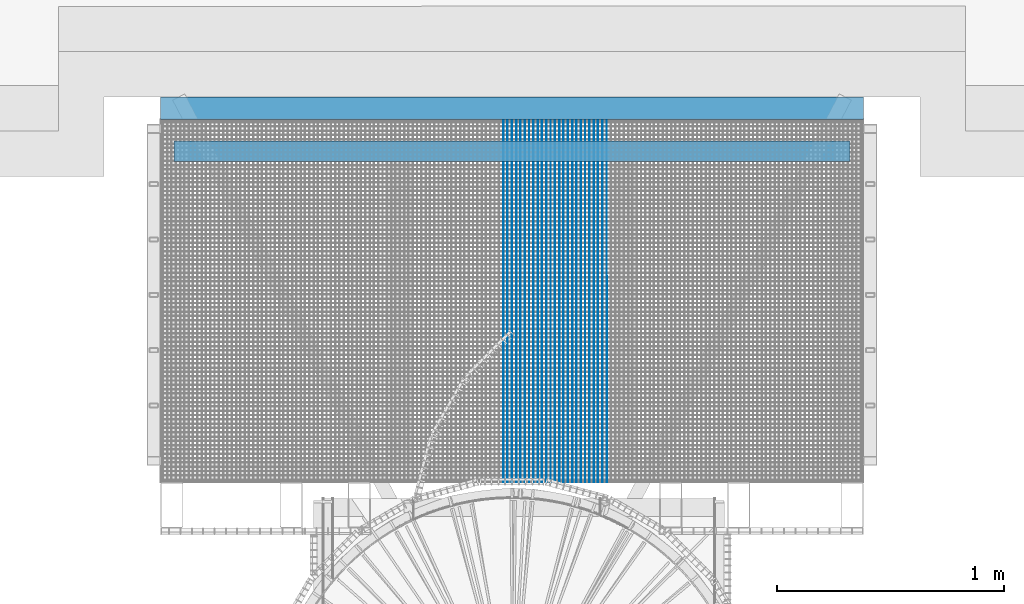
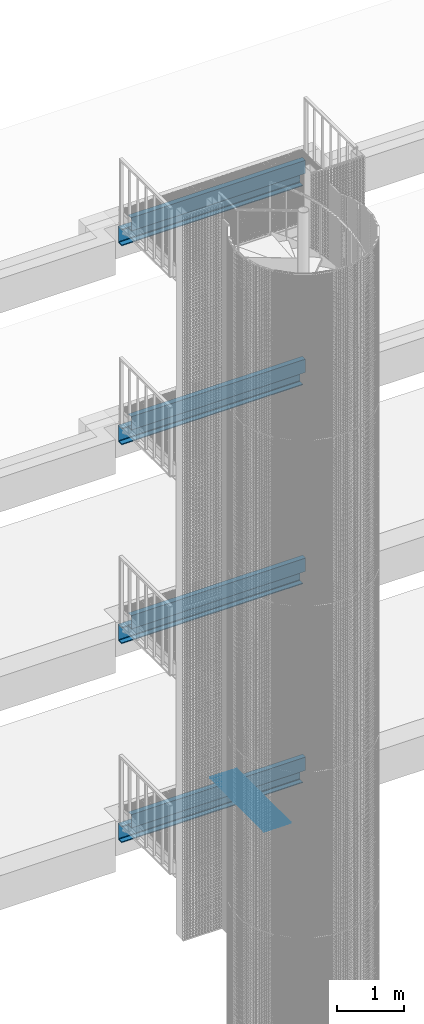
# One storey, part 84 of 1148: 33 beams, 9 elements without a shape of their own.
"""IFC2X3 building model written with IfcOpenShell, lengths in millimetres."""

from ifc_helpers import new_model, si_unit, frame, origin_with_axes, origin_2d_with_axis, place, context, subcontext, project, spatial, rectangle, u_section, extrude, material, type_object, element, aggregate, save


model = new_model("IFC2X3")

# Units and contexts
model_context = context("Model", 3, precision=1e-05, world=origin_with_axes())
body_context = subcontext(model_context, "Body", "Model", "MODEL_VIEW")
ifc_project = project(units=[si_unit("LENGTHUNIT", "METRE", prefix="MILLI"), si_unit("AREAUNIT", "SQUARE_METRE"), si_unit("VOLUMEUNIT", "CUBIC_METRE"), si_unit("MASSUNIT", "GRAM", prefix="KILO"), si_unit("TIMEUNIT", "SECOND"), si_unit("PLANEANGLEUNIT", "RADIAN"), si_unit("SOLIDANGLEUNIT", "STERADIAN"), si_unit("THERMODYNAMICTEMPERATUREUNIT", "DEGREE_CELSIUS"), si_unit("LUMINOUSINTENSITYUNIT", "LUMEN")], contexts=[model_context])

# Site, building, storey
site_placement = place(None, origin_with_axes())
site = spatial("IfcSite", under=ifc_project, at=site_placement, Name="Undefined", CompositionType="ELEMENT")
building_placement = place(site_placement, origin_with_axes())
building = spatial("IfcBuilding", under=site, at=building_placement, Name="Undefined", CompositionType="ELEMENT")
storey_placement = place(building_placement, origin_with_axes())
storey = spatial("IfcBuildingStorey", under=building, at=storey_placement, Name="Undefined", CompositionType="ELEMENT", Elevation=0.0)

# Assembly, beams
assembly_1_placement = place(storey_placement, origin_with_axes())
assembly_1 = element("IfcElementAssembly", 1, at=assembly_1_placement, inside=storey, Name="BORDURE", AssemblyPlace="NOTDEFINED", PredefinedType="NOTDEFINED")
ifc_material_1 = material(Name="STEEL/S235JR")
beam_type_1 = type_object("IfcBeamType", Name="PL2*10", PredefinedType="NOTDEFINED")
beam_1_placement = place(assembly_1_placement, frame((-37.9245752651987, 1102.00213198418, 6485.0), z_axis=(0.0, 0.0, 1.0), x_axis=(-4.50599999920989e-06, 0.999999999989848, 0.0)))
beam_1 = element("IfcBeam", 2, at=beam_1_placement, type_object=beam_type_1, material=ifc_material_1, Name="ENTRETOISE", context=body_context, shape_type="SweptSolid", body=[
    extrude(rectangle(XDim=2.0, YDim=10.0, at=origin_2d_with_axis()), frame((1596.0000000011, -1.35186458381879e-18, -7.27595761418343e-12), z_axis=(-1.0, 0.0, 0.0), x_axis=(0.0, -1.0, 0.0)), (0.0, 0.0, 1.0), 1596.0),
])
beam_2_placement = place(assembly_1_placement, frame((-18.9245752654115, 1102.00222550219, 6485.0), z_axis=(0.0, 0.0, 1.0), x_axis=(-4.50599999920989e-06, 0.999999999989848, 0.0)))
beam_2 = element("IfcBeam", 3, at=beam_2_placement, type_object=beam_type_1, material=ifc_material_1, Name="ENTRETOISE", context=body_context, shape_type="SweptSolid", body=[
    extrude(rectangle(XDim=2.0, YDim=10.0, at=origin_2d_with_axis()), frame((1596.0000000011, -1.35186458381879e-18, -7.27595761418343e-12), z_axis=(-1.0, 0.0, 0.0), x_axis=(0.0, -1.0, 0.0)), (0.0, 0.0, 1.0), 1596.0),
])
beam_3_placement = place(assembly_1_placement, frame((0.075424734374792, 1102.0023190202, 6485.0), z_axis=(0.0, 0.0, 1.0), x_axis=(-4.50599999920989e-06, 0.999999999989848, 0.0)))
beam_3 = element("IfcBeam", 4, at=beam_3_placement, type_object=beam_type_1, material=ifc_material_1, Name="ENTRETOISE", context=body_context, shape_type="SweptSolid", body=[
    extrude(rectangle(XDim=2.0, YDim=10.0, at=origin_2d_with_axis()), frame((1596.0000000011, -1.35186458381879e-18, -7.27595761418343e-12), z_axis=(-1.0, 0.0, 0.0), x_axis=(0.0, -1.0, 0.0)), (0.0, 0.0, 1.0), 1596.0),
])
beam_4_placement = place(assembly_1_placement, frame((19.075424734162, 1102.00241253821, 6485.0), z_axis=(0.0, 0.0, 1.0), x_axis=(-4.50599999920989e-06, 0.999999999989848, 0.0)))
beam_4 = element("IfcBeam", 5, at=beam_4_placement, type_object=beam_type_1, material=ifc_material_1, Name="ENTRETOISE", context=body_context, shape_type="SweptSolid", body=[
    extrude(rectangle(XDim=2.0, YDim=10.0, at=origin_2d_with_axis()), frame((1596.0000000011, -1.35186458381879e-18, -7.27595761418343e-12), z_axis=(-1.0, 0.0, 0.0), x_axis=(0.0, -1.0, 0.0)), (0.0, 0.0, 1.0), 1596.0),
])
beam_5_placement = place(assembly_1_placement, frame((38.0754247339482, 1102.00250605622, 6485.0), z_axis=(0.0, 0.0, 1.0), x_axis=(-4.50599999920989e-06, 0.999999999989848, 0.0)))
beam_5 = element("IfcBeam", 6, at=beam_5_placement, type_object=beam_type_1, material=ifc_material_1, Name="ENTRETOISE", context=body_context, shape_type="SweptSolid", body=[
    extrude(rectangle(XDim=2.0, YDim=10.0, at=origin_2d_with_axis()), frame((1596.0000000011, -1.35186458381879e-18, -7.27595761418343e-12), z_axis=(-1.0, 0.0, 0.0), x_axis=(0.0, -1.0, 0.0)), (0.0, 0.0, 1.0), 1596.0),
])
beam_6_placement = place(assembly_1_placement, frame((57.0754247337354, 1102.00259957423, 6485.0), z_axis=(0.0, 0.0, 1.0), x_axis=(-4.50599999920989e-06, 0.999999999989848, 0.0)))
beam_6 = element("IfcBeam", 7, at=beam_6_placement, type_object=beam_type_1, material=ifc_material_1, Name="ENTRETOISE", context=body_context, shape_type="SweptSolid", body=[
    extrude(rectangle(XDim=2.0, YDim=10.0, at=origin_2d_with_axis()), frame((1596.0000000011, -1.35186458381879e-18, -7.27595761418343e-12), z_axis=(-1.0, 0.0, 0.0), x_axis=(0.0, -1.0, 0.0)), (0.0, 0.0, 1.0), 1596.0),
])
beam_7_placement = place(assembly_1_placement, frame((76.0754247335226, 1102.00269309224, 6485.0), z_axis=(0.0, 0.0, 1.0), x_axis=(-4.50599999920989e-06, 0.999999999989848, 0.0)))
beam_7 = element("IfcBeam", 8, at=beam_7_placement, type_object=beam_type_1, material=ifc_material_1, Name="ENTRETOISE", context=body_context, shape_type="SweptSolid", body=[
    extrude(rectangle(XDim=2.0, YDim=10.0, at=origin_2d_with_axis()), frame((1596.0000000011, -1.35186458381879e-18, -7.27595761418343e-12), z_axis=(-1.0, 0.0, 0.0), x_axis=(0.0, -1.0, 0.0)), (0.0, 0.0, 1.0), 1596.0),
])
beam_8_placement = place(assembly_1_placement, frame((95.0754247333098, 1102.00278661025, 6485.0), z_axis=(0.0, 0.0, 1.0), x_axis=(-4.50599999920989e-06, 0.999999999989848, 0.0)))
beam_8 = element("IfcBeam", 9, at=beam_8_placement, type_object=beam_type_1, material=ifc_material_1, Name="ENTRETOISE", context=body_context, shape_type="SweptSolid", body=[
    extrude(rectangle(XDim=2.0, YDim=10.0, at=origin_2d_with_axis()), frame((1596.0000000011, -1.35186458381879e-18, -7.27595761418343e-12), z_axis=(-1.0, 0.0, 0.0), x_axis=(0.0, -1.0, 0.0)), (0.0, 0.0, 1.0), 1596.0),
])
beam_9_placement = place(assembly_1_placement, frame((114.075424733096, 1102.00288012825, 6485.0), z_axis=(0.0, 0.0, 1.0), x_axis=(-4.50599999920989e-06, 0.999999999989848, 0.0)))
beam_9 = element("IfcBeam", 10, at=beam_9_placement, type_object=beam_type_1, material=ifc_material_1, Name="ENTRETOISE", context=body_context, shape_type="SweptSolid", body=[
    extrude(rectangle(XDim=2.0, YDim=10.0, at=origin_2d_with_axis()), frame((1596.0000000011, -1.35186458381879e-18, -7.27595761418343e-12), z_axis=(-1.0, 0.0, 0.0), x_axis=(0.0, -1.0, 0.0)), (0.0, 0.0, 1.0), 1596.0),
])
beam_10_placement = place(assembly_1_placement, frame((133.075424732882, 1102.00297364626, 6485.0), z_axis=(0.0, 0.0, 1.0), x_axis=(-4.50599999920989e-06, 0.999999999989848, 0.0)))
beam_10 = element("IfcBeam", 11, at=beam_10_placement, type_object=beam_type_1, material=ifc_material_1, Name="ENTRETOISE", context=body_context, shape_type="SweptSolid", body=[
    extrude(rectangle(XDim=2.0, YDim=10.0, at=origin_2d_with_axis()), frame((1596.0000000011, -1.35186458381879e-18, -7.27595761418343e-12), z_axis=(-1.0, 0.0, 0.0), x_axis=(0.0, -1.0, 0.0)), (0.0, 0.0, 1.0), 1596.0),
])
beam_11_placement = place(assembly_1_placement, frame((152.075424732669, 1102.00306716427, 6485.0), z_axis=(0.0, 0.0, 1.0), x_axis=(-4.50599999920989e-06, 0.999999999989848, 0.0)))
beam_11 = element("IfcBeam", 12, at=beam_11_placement, type_object=beam_type_1, material=ifc_material_1, Name="ENTRETOISE", context=body_context, shape_type="SweptSolid", body=[
    extrude(rectangle(XDim=2.0, YDim=10.0, at=origin_2d_with_axis()), frame((1596.0000000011, -1.35186458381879e-18, -7.27595761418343e-12), z_axis=(-1.0, 0.0, 0.0), x_axis=(0.0, -1.0, 0.0)), (0.0, 0.0, 1.0), 1596.0),
])
beam_12_placement = place(assembly_1_placement, frame((171.075424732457, 1102.00316068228, 6485.0), z_axis=(0.0, 0.0, 1.0), x_axis=(-4.50599999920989e-06, 0.999999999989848, 0.0)))
beam_12 = element("IfcBeam", 13, at=beam_12_placement, type_object=beam_type_1, material=ifc_material_1, Name="ENTRETOISE", context=body_context, shape_type="SweptSolid", body=[
    extrude(rectangle(XDim=2.0, YDim=10.0, at=origin_2d_with_axis()), frame((1596.0000000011, -1.35186458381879e-18, -7.27595761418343e-12), z_axis=(-1.0, 0.0, 0.0), x_axis=(0.0, -1.0, 0.0)), (0.0, 0.0, 1.0), 1596.0),
])
beam_13_placement = place(assembly_1_placement, frame((190.075424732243, 1102.00325420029, 6485.0), z_axis=(0.0, 0.0, 1.0), x_axis=(-4.50599999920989e-06, 0.999999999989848, 0.0)))
beam_13 = element("IfcBeam", 14, at=beam_13_placement, type_object=beam_type_1, material=ifc_material_1, Name="ENTRETOISE", context=body_context, shape_type="SweptSolid", body=[
    extrude(rectangle(XDim=2.0, YDim=10.0, at=origin_2d_with_axis()), frame((1596.0000000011, -1.35186458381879e-18, -7.27595761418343e-12), z_axis=(-1.0, 0.0, 0.0), x_axis=(0.0, -1.0, 0.0)), (0.0, 0.0, 1.0), 1596.0),
])
beam_14_placement = place(assembly_1_placement, frame((209.075424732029, 1102.0033477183, 6485.0), z_axis=(0.0, 0.0, 1.0), x_axis=(-4.50599999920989e-06, 0.999999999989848, 0.0)))
beam_14 = element("IfcBeam", 15, at=beam_14_placement, type_object=beam_type_1, material=ifc_material_1, Name="ENTRETOISE", context=body_context, shape_type="SweptSolid", body=[
    extrude(rectangle(XDim=2.0, YDim=10.0, at=origin_2d_with_axis()), frame((1596.0000000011, -1.35186458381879e-18, -7.27595761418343e-12), z_axis=(-1.0, 0.0, 0.0), x_axis=(0.0, -1.0, 0.0)), (0.0, 0.0, 1.0), 1596.0),
])
beam_15_placement = place(assembly_1_placement, frame((228.075424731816, 1102.00344123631, 6485.0), z_axis=(0.0, 0.0, 1.0), x_axis=(-4.50599999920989e-06, 0.999999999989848, 0.0)))
beam_15 = element("IfcBeam", 16, at=beam_15_placement, type_object=beam_type_1, material=ifc_material_1, Name="ENTRETOISE", context=body_context, shape_type="SweptSolid", body=[
    extrude(rectangle(XDim=2.0, YDim=10.0, at=origin_2d_with_axis()), frame((1596.0000000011, -1.35186458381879e-18, -7.27595761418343e-12), z_axis=(-1.0, 0.0, 0.0), x_axis=(0.0, -1.0, 0.0)), (0.0, 0.0, 1.0), 1596.0),
])
beam_16_placement = place(assembly_1_placement, frame((247.075424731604, 1102.00353475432, 6485.0), z_axis=(0.0, 0.0, 1.0), x_axis=(-4.50599999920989e-06, 0.999999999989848, 0.0)))
beam_16 = element("IfcBeam", 17, at=beam_16_placement, type_object=beam_type_1, material=ifc_material_1, Name="ENTRETOISE", context=body_context, shape_type="SweptSolid", body=[
    extrude(rectangle(XDim=2.0, YDim=10.0, at=origin_2d_with_axis()), frame((1596.0000000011, -1.35186458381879e-18, -7.27595761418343e-12), z_axis=(-1.0, 0.0, 0.0), x_axis=(0.0, -1.0, 0.0)), (0.0, 0.0, 1.0), 1596.0),
])
beam_17_placement = place(assembly_1_placement, frame((266.075424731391, 1102.00362827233, 6485.0), z_axis=(0.0, 0.0, 1.0), x_axis=(-4.50599999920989e-06, 0.999999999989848, 0.0)))
beam_17 = element("IfcBeam", 18, at=beam_17_placement, type_object=beam_type_1, material=ifc_material_1, Name="ENTRETOISE", context=body_context, shape_type="SweptSolid", body=[
    extrude(rectangle(XDim=2.0, YDim=10.0, at=origin_2d_with_axis()), frame((1596.0000000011, -1.35186458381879e-18, -7.27595761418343e-12), z_axis=(-1.0, 0.0, 0.0), x_axis=(0.0, -1.0, 0.0)), (0.0, 0.0, 1.0), 1596.0),
])
beam_18_placement = place(assembly_1_placement, frame((285.075424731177, 1102.00372179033, 6485.0), z_axis=(0.0, 0.0, 1.0), x_axis=(-4.50599999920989e-06, 0.999999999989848, 0.0)))
beam_18 = element("IfcBeam", 19, at=beam_18_placement, type_object=beam_type_1, material=ifc_material_1, Name="ENTRETOISE", context=body_context, shape_type="SweptSolid", body=[
    extrude(rectangle(XDim=2.0, YDim=10.0, at=origin_2d_with_axis()), frame((1596.0000000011, -1.35186458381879e-18, -7.27595761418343e-12), z_axis=(-1.0, 0.0, 0.0), x_axis=(0.0, -1.0, 0.0)), (0.0, 0.0, 1.0), 1596.0),
])
beam_19_placement = place(assembly_1_placement, frame((304.075424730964, 1102.00381530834, 6485.0), z_axis=(0.0, 0.0, 1.0), x_axis=(-4.50599999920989e-06, 0.999999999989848, 0.0)))
beam_19 = element("IfcBeam", 20, at=beam_19_placement, type_object=beam_type_1, material=ifc_material_1, Name="ENTRETOISE", context=body_context, shape_type="SweptSolid", body=[
    extrude(rectangle(XDim=2.0, YDim=10.0, at=origin_2d_with_axis()), frame((1596.0000000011, -1.35186458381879e-18, -7.27595761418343e-12), z_axis=(-1.0, 0.0, 0.0), x_axis=(0.0, -1.0, 0.0)), (0.0, 0.0, 1.0), 1596.0),
])
beam_20_placement = place(assembly_1_placement, frame((323.07542473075, 1102.00390882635, 6485.0), z_axis=(0.0, 0.0, 1.0), x_axis=(-4.50599999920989e-06, 0.999999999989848, 0.0)))
beam_20 = element("IfcBeam", 21, at=beam_20_placement, type_object=beam_type_1, material=ifc_material_1, Name="ENTRETOISE", context=body_context, shape_type="SweptSolid", body=[
    extrude(rectangle(XDim=2.0, YDim=10.0, at=origin_2d_with_axis()), frame((1596.0000000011, -1.35186458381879e-18, -7.27595761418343e-12), z_axis=(-1.0, 0.0, 0.0), x_axis=(0.0, -1.0, 0.0)), (0.0, 0.0, 1.0), 1596.0),
])
beam_21_placement = place(assembly_1_placement, frame((342.075424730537, 1102.00400234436, 6485.0), z_axis=(0.0, 0.0, 1.0), x_axis=(-4.50599999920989e-06, 0.999999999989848, 0.0)))
beam_21 = element("IfcBeam", 22, at=beam_21_placement, type_object=beam_type_1, material=ifc_material_1, Name="ENTRETOISE", context=body_context, shape_type="SweptSolid", body=[
    extrude(rectangle(XDim=2.0, YDim=10.0, at=origin_2d_with_axis()), frame((1596.0000000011, -1.35186458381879e-18, -7.27595761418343e-12), z_axis=(-1.0, 0.0, 0.0), x_axis=(0.0, -1.0, 0.0)), (0.0, 0.0, 1.0), 1596.0),
])
beam_22_placement = place(assembly_1_placement, frame((361.075424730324, 1102.00409586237, 6485.0), z_axis=(0.0, 0.0, 1.0), x_axis=(-4.50599999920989e-06, 0.999999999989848, 0.0)))
beam_22 = element("IfcBeam", 23, at=beam_22_placement, type_object=beam_type_1, material=ifc_material_1, Name="ENTRETOISE", context=body_context, shape_type="SweptSolid", body=[
    extrude(rectangle(XDim=2.0, YDim=10.0, at=origin_2d_with_axis()), frame((1596.0000000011, -1.35186458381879e-18, -7.27595761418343e-12), z_axis=(-1.0, 0.0, 0.0), x_axis=(0.0, -1.0, 0.0)), (0.0, 0.0, 1.0), 1596.0),
])
beam_23_placement = place(assembly_1_placement, frame((380.07542473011, 1102.00418938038, 6485.0), z_axis=(0.0, 0.0, 1.0), x_axis=(-4.50599999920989e-06, 0.999999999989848, 0.0)))
beam_23 = element("IfcBeam", 24, at=beam_23_placement, type_object=beam_type_1, material=ifc_material_1, Name="ENTRETOISE", context=body_context, shape_type="SweptSolid", body=[
    extrude(rectangle(XDim=2.0, YDim=10.0, at=origin_2d_with_axis()), frame((1596.0000000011, -1.35186458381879e-18, -7.27595761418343e-12), z_axis=(-1.0, 0.0, 0.0), x_axis=(0.0, -1.0, 0.0)), (0.0, 0.0, 1.0), 1596.0),
])
beam_24_placement = place(assembly_1_placement, frame((399.075424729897, 1102.00428289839, 6485.0), z_axis=(0.0, 0.0, 1.0), x_axis=(-4.50599999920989e-06, 0.999999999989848, 0.0)))
beam_24 = element("IfcBeam", 25, at=beam_24_placement, type_object=beam_type_1, material=ifc_material_1, Name="ENTRETOISE", context=body_context, shape_type="SweptSolid", body=[
    extrude(rectangle(XDim=2.0, YDim=10.0, at=origin_2d_with_axis()), frame((1596.0000000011, -1.35186458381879e-18, -7.27595761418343e-12), z_axis=(-1.0, 0.0, 0.0), x_axis=(0.0, -1.0, 0.0)), (0.0, 0.0, 1.0), 1596.0),
])
beam_25_placement = place(assembly_1_placement, frame((418.075424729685, 1102.0043764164, 6485.0), z_axis=(0.0, 0.0, 1.0), x_axis=(-4.50599999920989e-06, 0.999999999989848, 0.0)))
beam_25 = element("IfcBeam", 26, at=beam_25_placement, type_object=beam_type_1, material=ifc_material_1, Name="ENTRETOISE", context=body_context, shape_type="SweptSolid", body=[
    extrude(rectangle(XDim=2.0, YDim=10.0, at=origin_2d_with_axis()), frame((1596.0000000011, -1.35186458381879e-18, -7.27595761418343e-12), z_axis=(-1.0, 0.0, 0.0), x_axis=(0.0, -1.0, 0.0)), (0.0, 0.0, 1.0), 1596.0),
])
aggregate(assembly_1, [beam_1, beam_2, beam_3, beam_4, beam_5, beam_6, beam_7, beam_8, beam_9, beam_10, beam_11, beam_12, beam_13, beam_14, beam_15, beam_16, beam_17, beam_18, beam_19, beam_20, beam_21, beam_22, beam_23, beam_24, beam_25])

# Assembly, beam
assembly_2_placement = place(storey_placement, origin_with_axes())
assembly_2 = element("IfcElementAssembly", 27, at=assembly_2_placement, inside=storey, Name="TRAVERSE", AssemblyPlace="NOTDEFINED", PredefinedType="NOTDEFINED")
ifc_material_2 = material(Name="STEEL/S275JR")
beam_type_2 = type_object("IfcBeamType", Name="UPE300", PredefinedType="NOTDEFINED")
beam_26_placement = place(assembly_2_placement, frame((-1549.92723825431, 2749.84818067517, 16790.0), z_axis=(0.0, 0.0, 1.0), x_axis=(1.0, 0.0, 0.0)))
beam_26 = element("IfcBeam", 28, at=beam_26_placement, type_object=beam_type_2, material=ifc_material_2, Name="TRAVERSE", context=body_context, shape_type="SweptSolid", body=[
    extrude(u_section(Depth=300.0, FlangeWidth=100.0, WebThickness=9.5, FlangeThickness=15.0, FilletRadius=15.0, at=origin_2d_with_axis()), frame((3099.99084151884, -4.54747022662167e-13, 3.63797880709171e-12), z_axis=(-1.0, 0.0, 0.0), x_axis=(0.0, -1.0, 0.0)), (0.0, 0.0, 1.0), 3099.99),
])
aggregate(assembly_2, [beam_26])

assembly_3_placement = place(storey_placement, origin_with_axes())
assembly_3 = element("IfcElementAssembly", 29, at=assembly_3_placement, inside=storey, Name="TRAVERSE", AssemblyPlace="NOTDEFINED", PredefinedType="NOTDEFINED")
beam_27_placement = place(assembly_3_placement, frame((-1549.92723825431, 2749.92818067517, 13190.0), z_axis=(0.0, 0.0, 1.0), x_axis=(1.0, 0.0, 0.0)))
beam_27 = element("IfcBeam", 30, at=beam_27_placement, type_object=beam_type_2, material=ifc_material_2, Name="TRAVERSE", context=body_context, shape_type="SweptSolid", body=[
    extrude(u_section(Depth=300.0, FlangeWidth=100.0, WebThickness=9.5, FlangeThickness=15.0, FilletRadius=15.0, at=origin_2d_with_axis()), frame((3099.99084151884, -4.54747022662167e-13, 3.63797880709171e-12), z_axis=(-1.0, 0.0, 0.0), x_axis=(0.0, -1.0, 0.0)), (0.0, 0.0, 1.0), 3099.99),
])
aggregate(assembly_3, [beam_27])

assembly_4_placement = place(storey_placement, origin_with_axes())
assembly_4 = element("IfcElementAssembly", 31, at=assembly_4_placement, inside=storey, Name="TRAVERSE", AssemblyPlace="NOTDEFINED", PredefinedType="NOTDEFINED")
beam_28_placement = place(assembly_4_placement, frame((-1549.92723825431, 2750.00818067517, 9590.0), z_axis=(0.0, 0.0, 1.0), x_axis=(1.0, 0.0, 0.0)))
beam_28 = element("IfcBeam", 32, at=beam_28_placement, type_object=beam_type_2, material=ifc_material_2, Name="TRAVERSE", context=body_context, shape_type="SweptSolid", body=[
    extrude(u_section(Depth=300.0, FlangeWidth=100.0, WebThickness=9.5, FlangeThickness=15.0, FilletRadius=15.0, at=origin_2d_with_axis()), frame((3099.99084151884, -4.54747022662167e-13, 3.63797880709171e-12), z_axis=(-1.0, 0.0, 0.0), x_axis=(0.0, -1.0, 0.0)), (0.0, 0.0, 1.0), 3099.99),
])
aggregate(assembly_4, [beam_28])

assembly_5_placement = place(storey_placement, origin_with_axes())
assembly_5 = element("IfcElementAssembly", 33, at=assembly_5_placement, inside=storey, Name="TRAVERSE", AssemblyPlace="NOTDEFINED", PredefinedType="NOTDEFINED")
beam_29_placement = place(assembly_5_placement, frame((-1549.92723825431, 2750.08818067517, 5990.0), z_axis=(0.0, 0.0, 1.0), x_axis=(1.0, 0.0, 0.0)))
beam_29 = element("IfcBeam", 34, at=beam_29_placement, type_object=beam_type_2, material=ifc_material_2, Name="TRAVERSE", context=body_context, shape_type="SweptSolid", body=[
    extrude(u_section(Depth=300.0, FlangeWidth=100.0, WebThickness=9.5, FlangeThickness=15.0, FilletRadius=15.0, at=origin_2d_with_axis()), frame((3099.99084151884, -4.54747022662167e-13, 3.63797880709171e-12), z_axis=(-1.0, 0.0, 0.0), x_axis=(0.0, -1.0, 0.0)), (0.0, 0.0, 1.0), 3099.99),
])
aggregate(assembly_5, [beam_29])

assembly_6_placement = place(storey_placement, origin_with_axes())
assembly_6 = element("IfcElementAssembly", 35, at=assembly_6_placement, inside=storey, AssemblyPlace="NOTDEFINED", PredefinedType="NOTDEFINED")
beam_type_3 = type_object("IfcBeamType", Name="UPE240", PredefinedType="NOTDEFINED")
beam_30_placement = place(assembly_6_placement, frame((-1489.9201797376, 2559.99468994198, 17120.0), z_axis=(0.0, 0.0, -1.0), x_axis=(0.999999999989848, 4.50600000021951e-06, 0.0)))
beam_30 = element("IfcBeam", 36, at=beam_30_placement, type_object=beam_type_3, material=ifc_material_1, Name="EXISTANTS", context=body_context, shape_type="SweptSolid", body=[
    extrude(u_section(Depth=240.0, FlangeWidth=90.0, WebThickness=7.0, FlangeThickness=12.5, FilletRadius=15.0, at=origin_2d_with_axis()), frame((2979.99084475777, 0.0, 3.63797880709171e-12), z_axis=(-1.0, 0.0, 0.0), x_axis=(0.0, -1.0, 0.0)), (0.0, 0.0, 1.0), 2979.99),
])
aggregate(assembly_6, [beam_30])

assembly_7_placement = place(storey_placement, origin_with_axes())
assembly_7 = element("IfcElementAssembly", 37, at=assembly_7_placement, inside=storey, AssemblyPlace="NOTDEFINED", PredefinedType="NOTDEFINED")
beam_31_placement = place(assembly_7_placement, frame((-1489.9201797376, 2559.99468994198, 13520.0), z_axis=(0.0, 0.0, -1.0), x_axis=(0.999999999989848, 4.50600000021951e-06, 0.0)))
beam_31 = element("IfcBeam", 38, at=beam_31_placement, type_object=beam_type_3, material=ifc_material_1, Name="EXISTANTS", context=body_context, shape_type="SweptSolid", body=[
    extrude(u_section(Depth=240.0, FlangeWidth=90.0, WebThickness=7.0, FlangeThickness=12.5, FilletRadius=15.0, at=origin_2d_with_axis()), frame((2979.99084475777, 0.0, 3.63797880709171e-12), z_axis=(-1.0, 0.0, 0.0), x_axis=(0.0, -1.0, 0.0)), (0.0, 0.0, 1.0), 2979.99),
])
aggregate(assembly_7, [beam_31])

assembly_8_placement = place(storey_placement, origin_with_axes())
assembly_8 = element("IfcElementAssembly", 39, at=assembly_8_placement, inside=storey, AssemblyPlace="NOTDEFINED", PredefinedType="NOTDEFINED")
beam_32_placement = place(assembly_8_placement, frame((-1489.9201797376, 2559.99468994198, 9920.0), z_axis=(0.0, 0.0, -1.0), x_axis=(0.999999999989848, 4.50600000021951e-06, 0.0)))
beam_32 = element("IfcBeam", 40, at=beam_32_placement, type_object=beam_type_3, material=ifc_material_1, Name="EXISTANTS", context=body_context, shape_type="SweptSolid", body=[
    extrude(u_section(Depth=240.0, FlangeWidth=90.0, WebThickness=7.0, FlangeThickness=12.5, FilletRadius=15.0, at=origin_2d_with_axis()), frame((2979.99084475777, 0.0, 3.63797880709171e-12), z_axis=(-1.0, 0.0, 0.0), x_axis=(0.0, -1.0, 0.0)), (0.0, 0.0, 1.0), 2979.99),
])
aggregate(assembly_8, [beam_32])

assembly_9_placement = place(storey_placement, origin_with_axes())
assembly_9 = element("IfcElementAssembly", 41, at=assembly_9_placement, inside=storey, AssemblyPlace="NOTDEFINED", PredefinedType="NOTDEFINED")
beam_33_placement = place(assembly_9_placement, frame((-1489.9201797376, 2559.99468994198, 6320.0), z_axis=(0.0, 0.0, -1.0), x_axis=(0.999999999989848, 4.50600000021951e-06, 0.0)))
beam_33 = element("IfcBeam", 42, at=beam_33_placement, type_object=beam_type_3, material=ifc_material_1, Name="EXISTANTS", context=body_context, shape_type="SweptSolid", body=[
    extrude(u_section(Depth=240.0, FlangeWidth=90.0, WebThickness=7.0, FlangeThickness=12.5, FilletRadius=15.0, at=origin_2d_with_axis()), frame((2979.99084475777, 0.0, 3.63797880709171e-12), z_axis=(-1.0, 0.0, 0.0), x_axis=(0.0, -1.0, 0.0)), (0.0, 0.0, 1.0), 2979.99),
])
aggregate(assembly_9, [beam_33])

save(model, "model.ifc")
